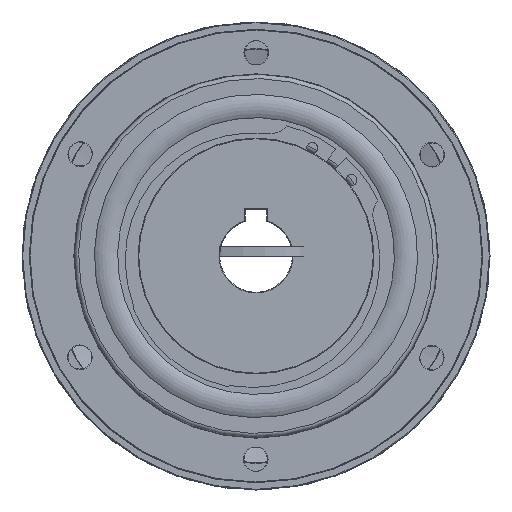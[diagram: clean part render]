
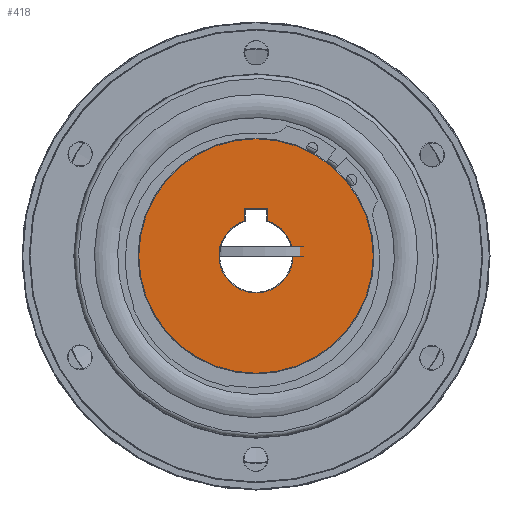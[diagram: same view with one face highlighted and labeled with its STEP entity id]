
A CAD part, left-side view. The second image highlights one B-rep face of the part: STEP entity #418.
In plain terms, the highlighted planar face has unit normal (-1, 0, 0).
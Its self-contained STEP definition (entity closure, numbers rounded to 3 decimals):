
#418 = ADVANCED_FACE( '', ( #717, #718 ), #719, .F. );
#717 = FACE_OUTER_BOUND( '', #1071, .T. );
#718 = FACE_BOUND( '', #1072, .T. );
#719 = PLANE( '', #1073 );
#1071 = EDGE_LOOP( '', ( #1531 ) );
#1072 = EDGE_LOOP( '', ( #1532, #1533, #1534, #1535 ) );
#1073 = AXIS2_PLACEMENT_3D( '', #1536, #1537, #1538 );
#1531 = ORIENTED_EDGE( '', *, *, #2058, .T. );
#1532 = ORIENTED_EDGE( '', *, *, #2059, .T. );
#1533 = ORIENTED_EDGE( '', *, *, #2057, .T. );
#1534 = ORIENTED_EDGE( '', *, *, #2060, .T. );
#1535 = ORIENTED_EDGE( '', *, *, #2061, .T. );
#1536 = CARTESIAN_POINT( '', ( -33.3, 32.5, 0. ) );
#1537 = DIRECTION( '', ( 1., 0., 0. ) );
#1538 = DIRECTION( '', ( 0., 1., 0. ) );
#2057 = EDGE_CURVE( '', #2298, #2300, #2302, .T. );
#2058 = EDGE_CURVE( '', #2303, #2303, #2304, .T. );
#2059 = EDGE_CURVE( '', #2305, #2298, #2306, .T. );
#2060 = EDGE_CURVE( '', #2300, #2307, #2308, .T. );
#2061 = EDGE_CURVE( '', #2307, #2305, #2309, .T. );
#2298 = VERTEX_POINT( '', #2536 );
#2300 = VERTEX_POINT( '', #2539 );
#2302 = LINE( '', #2541, #2542 );
#2303 = VERTEX_POINT( '', #2543 );
#2304 = CIRCLE( '', #2544, 32.3 );
#2305 = VERTEX_POINT( '', #2545 );
#2306 = LINE( '', #2546, #2547 );
#2307 = VERTEX_POINT( '', #2548 );
#2308 = CIRCLE( '', #2549, 10.2 );
#2309 = LINE( '', #2550, #2551 );
#2536 = CARTESIAN_POINT( '', ( -33.3, -3.2, 13. ) );
#2539 = CARTESIAN_POINT( '', ( -33.3, -3.2, 9.685 ) );
#2541 = CARTESIAN_POINT( '', ( -33.3, -3.2, 9.749 ) );
#2542 = VECTOR( '', #3130, 1000. );
#2543 = CARTESIAN_POINT( '', ( -33.3, 0., -32.3 ) );
#2544 = AXIS2_PLACEMENT_3D( '', #3131, #3132, #3133 );
#2545 = CARTESIAN_POINT( '', ( -33.3, 3.2, 13. ) );
#2546 = CARTESIAN_POINT( '', ( -33.3, -3., 13. ) );
#2547 = VECTOR( '', #3134, 1000. );
#2548 = CARTESIAN_POINT( '', ( -33.3, 3.2, 9.685 ) );
#2549 = AXIS2_PLACEMENT_3D( '', #3135, #3136, #3137 );
#2550 = CARTESIAN_POINT( '', ( -33.3, 3.2, 13. ) );
#2551 = VECTOR( '', #3138, 1000. );
#3130 = DIRECTION( '', ( 0., 0., -1. ) );
#3131 = CARTESIAN_POINT( '', ( -33.3, 0., 0. ) );
#3132 = DIRECTION( '', ( -1., 0., 0. ) );
#3133 = DIRECTION( '', ( 0., 0., -1. ) );
#3134 = DIRECTION( '', ( 0., -1., 0. ) );
#3135 = CARTESIAN_POINT( '', ( -33.3, 0., 0. ) );
#3136 = DIRECTION( '', ( 1., 0., 0. ) );
#3137 = DIRECTION( '', ( 0., 0., -1. ) );
#3138 = DIRECTION( '', ( 0., 0., 1. ) );
